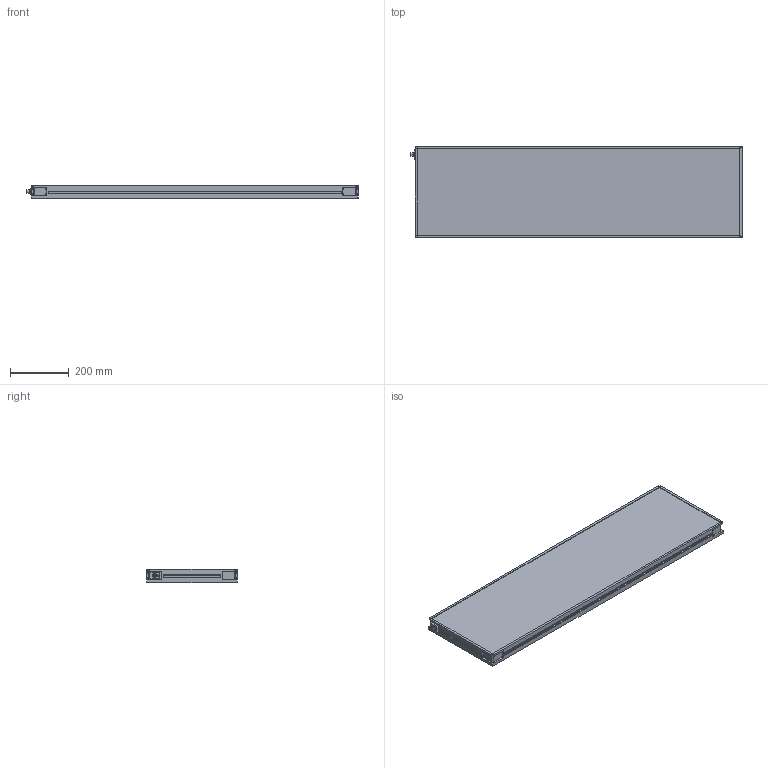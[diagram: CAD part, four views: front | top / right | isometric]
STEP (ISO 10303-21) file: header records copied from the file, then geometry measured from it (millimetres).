
FILE_DESCRIPTION (( 'STEP AP214' ), '1' );
FILE_NAME ('MBACK-xxxx-xxx-M1_CLIENT300x1100.STEP', '2022-03-31T15:59:56', ( '' ), ( '' ), 'SwSTEP 2.0', 'SolidWorks 2020', '' );
FILE_SCHEMA (( 'AUTOMOTIVE_DESIGN' ));
Length unit declared in the file: millimetre
Products named in the file (1): MBACK-xxxx-xxx-M1_CLIENT300x1100
Bounding box: 1125.9 x 308 x 45.5 mm (x, y, z)
Volume: 14156119.8 mm3; surface area: 870503.6 mm2
Topology: 1 solids, 1 shells, 442 faces, 1144 edges, 760 vertices
Faces by surface type: plane 249, cylinder 105, bspline 80, cone 8
Entity records: 17236 total; most frequent: CARTESIAN_POINT 6699, ORIENTED_EDGE 2288, DIRECTION 1936, EDGE_CURVE 1144, VERTEX_POINT 760, LINE 758, VECTOR 758, AXIS2_PLACEMENT_3D 589
